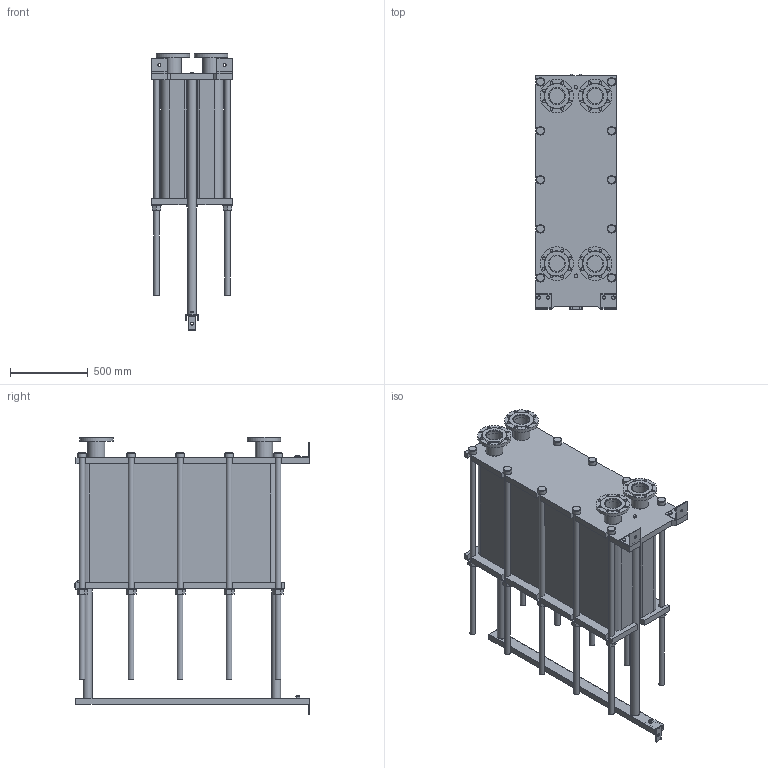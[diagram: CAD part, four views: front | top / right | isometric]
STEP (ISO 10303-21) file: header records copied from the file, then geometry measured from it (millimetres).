
FILE_DESCRIPTION(/* description */ (''),/* implementation_level */ '2;1');
FILE_NAME(/* name */ 'C:\Users\zhuro\Desktop\ENCO\TO\ЭН-04\ЭН-0,5-04-221-1.stp',/* time_stamp */ '2022-06-06T11:05:09+03:00',/* author */ ('zhuro'),/* organization */ (''),/* preprocessor_version */ 'ST-DEVELOPER v18.1',/* originating_system */ 'Autodesk Inventor 2022',/* authorisation */ '');
FILE_SCHEMA (('AUTOMOTIVE_DESIGN { 1 0 10303 214 3 1 1 }'));
Length unit declared in the file: millimetre
Products named in the file (1): ЭН-0,5-04-221-1
Bounding box: 520 x 1510 x 1780.5 mm (x, y, z)
Volume: 458758485.7 mm3; surface area: 11016063.4 mm2
Topology: 45 solids, 45 shells, 668 faces, 1611 edges, 1048 vertices
Faces by surface type: plane 457, cylinder 166, cone 39, torus 6
Full cylindrical faces by diameter (mm): 8 x4, 10 x2, 16 x8, 18 x35, 36 x25, 40 x2, 42 x1, 45 x4, 54 x10, 57 x2, 60 x10, 68 x2, 100 x4, 110 x8, 215 x4
Entity records: 23607 total; most frequent: CARTESIAN_POINT 7348, DIRECTION 3371, ORIENTED_EDGE 3142, EDGE_CURVE 1571, AXIS2_PLACEMENT_3D 1199, VERTEX_POINT 1044, LINE 973, VECTOR 973
